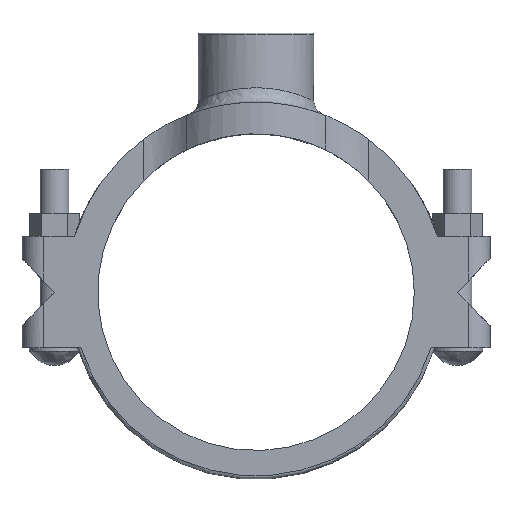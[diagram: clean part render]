
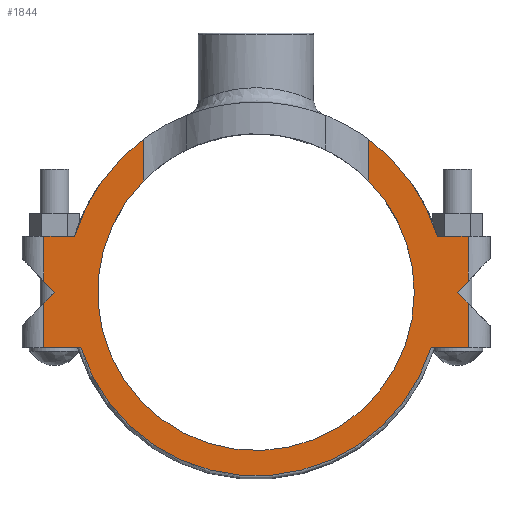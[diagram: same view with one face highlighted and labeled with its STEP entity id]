
A CAD part, top view. The second image highlights one B-rep face of the part: STEP entity #1844.
In plain terms, the highlighted planar face has unit normal (0, 0, 1).
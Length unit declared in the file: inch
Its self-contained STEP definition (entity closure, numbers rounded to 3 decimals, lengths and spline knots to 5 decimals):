
#104=PLANE('',#2021);
#201=LINE('',#3269,#341);
#214=LINE('',#3306,#354);
#217=LINE('',#3426,#357);
#221=LINE('',#3439,#361);
#226=LINE('',#3448,#366);
#234=LINE('',#3466,#374);
#235=LINE('',#3470,#375);
#236=LINE('',#3473,#376);
#237=LINE('',#3475,#377);
#238=LINE('',#3476,#378);
#239=LINE('',#3477,#379);
#240=LINE('',#3479,#380);
#241=LINE('',#3481,#381);
#242=LINE('',#3482,#382);
#341=VECTOR('',#2350,0.3937);
#354=VECTOR('',#2387,0.3937);
#357=VECTOR('',#2402,0.3937);
#361=VECTOR('',#2414,0.3937);
#366=VECTOR('',#2425,0.3937);
#374=VECTOR('',#2445,0.3937);
#375=VECTOR('',#2450,0.3937);
#376=VECTOR('',#2453,0.3937);
#377=VECTOR('',#2454,0.3937);
#378=VECTOR('',#2455,0.3937);
#379=VECTOR('',#2456,0.3937);
#380=VECTOR('',#2457,0.3937);
#381=VECTOR('',#2458,0.3937);
#382=VECTOR('',#2459,0.3937);
#470=FACE_OUTER_BOUND('',#568,.T.);
#568=EDGE_LOOP('',(#1463,#1464,#1465,#1466,#1467,#1468,#1469,#1470,#1471,
#1472,#1473,#1474,#1475,#1476,#1477,#1478,#1479,#1480,#1481));
#602=CIRCLE('',#1896,3.3);
#603=CIRCLE('',#1897,3.3);
#651=CIRCLE('',#2003,2.75);
#652=CIRCLE('',#2004,2.75);
#657=CIRCLE('',#2022,3.19);
#713=VERTEX_POINT('',#2716);
#714=VERTEX_POINT('',#2718);
#717=VERTEX_POINT('',#2756);
#718=VERTEX_POINT('',#2769);
#807=VERTEX_POINT('',#3266);
#808=VERTEX_POINT('',#3268);
#819=VERTEX_POINT('',#3303);
#820=VERTEX_POINT('',#3305);
#826=VERTEX_POINT('',#3365);
#827=VERTEX_POINT('',#3367);
#830=VERTEX_POINT('',#3407);
#831=VERTEX_POINT('',#3425);
#836=VERTEX_POINT('',#3437);
#841=VERTEX_POINT('',#3465);
#842=VERTEX_POINT('',#3469);
#843=VERTEX_POINT('',#3471);
#844=VERTEX_POINT('',#3474);
#845=VERTEX_POINT('',#3478);
#846=VERTEX_POINT('',#3480);
#890=EDGE_CURVE('',#714,#713,#602,.T.);
#894=EDGE_CURVE('',#718,#717,#603,.T.);
#1019=EDGE_CURVE('',#808,#807,#201,.T.);
#1038=EDGE_CURVE('',#820,#819,#214,.T.);
#1045=EDGE_CURVE('',#827,#826,#651,.T.);
#1049=EDGE_CURVE('',#826,#830,#652,.T.);
#1051=EDGE_CURVE('',#831,#820,#217,.T.);
#1058=EDGE_CURVE('',#807,#836,#221,.T.);
#1063=EDGE_CURVE('',#827,#717,#226,.T.);
#1072=EDGE_CURVE('',#831,#841,#234,.T.);
#1074=EDGE_CURVE('',#842,#836,#235,.T.);
#1075=EDGE_CURVE('',#842,#843,#657,.T.);
#1076=EDGE_CURVE('',#841,#843,#236,.T.);
#1077=EDGE_CURVE('',#819,#844,#237,.T.);
#1078=EDGE_CURVE('',#844,#718,#238,.T.);
#1079=EDGE_CURVE('',#830,#714,#239,.T.);
#1080=EDGE_CURVE('',#713,#845,#240,.T.);
#1081=EDGE_CURVE('',#846,#845,#241,.T.);
#1082=EDGE_CURVE('',#846,#808,#242,.T.);
#1463=ORIENTED_EDGE('',*,*,#1019,.T.);
#1464=ORIENTED_EDGE('',*,*,#1058,.T.);
#1465=ORIENTED_EDGE('',*,*,#1074,.F.);
#1466=ORIENTED_EDGE('',*,*,#1075,.T.);
#1467=ORIENTED_EDGE('',*,*,#1076,.F.);
#1468=ORIENTED_EDGE('',*,*,#1072,.F.);
#1469=ORIENTED_EDGE('',*,*,#1051,.T.);
#1470=ORIENTED_EDGE('',*,*,#1038,.T.);
#1471=ORIENTED_EDGE('',*,*,#1077,.T.);
#1472=ORIENTED_EDGE('',*,*,#1078,.T.);
#1473=ORIENTED_EDGE('',*,*,#894,.T.);
#1474=ORIENTED_EDGE('',*,*,#1063,.F.);
#1475=ORIENTED_EDGE('',*,*,#1045,.T.);
#1476=ORIENTED_EDGE('',*,*,#1049,.T.);
#1477=ORIENTED_EDGE('',*,*,#1079,.T.);
#1478=ORIENTED_EDGE('',*,*,#890,.T.);
#1479=ORIENTED_EDGE('',*,*,#1080,.T.);
#1480=ORIENTED_EDGE('',*,*,#1081,.F.);
#1481=ORIENTED_EDGE('',*,*,#1082,.T.);
#1844=ADVANCED_FACE('',(#470),#104,.T.);
#1896=AXIS2_PLACEMENT_3D('',#2719,#2095,#2096);
#1897=AXIS2_PLACEMENT_3D('',#2770,#2097,#2098);
#2003=AXIS2_PLACEMENT_3D('',#3368,#2394,#2395);
#2004=AXIS2_PLACEMENT_3D('',#3422,#2396,#2397);
#2021=AXIS2_PLACEMENT_3D('',#3468,#2448,#2449);
#2022=AXIS2_PLACEMENT_3D('',#3472,#2451,#2452);
#2095=DIRECTION('center_axis',(0.,0.,1.));
#2096=DIRECTION('ref_axis',(-0.956,-0.294,0.));
#2097=DIRECTION('center_axis',(0.,0.,1.));
#2098=DIRECTION('ref_axis',(-0.956,-0.294,0.));
#2350=DIRECTION('',(-0.698,-0.716,0.));
#2387=DIRECTION('',(0.692,0.722,0.));
#2394=DIRECTION('center_axis',(0.,0.,-1.));
#2395=DIRECTION('ref_axis',(-1.,0.,0.));
#2396=DIRECTION('center_axis',(0.,0.,-1.));
#2397=DIRECTION('ref_axis',(-1.,0.,0.));
#2402=DIRECTION('',(-0.698,0.716,0.));
#2414=DIRECTION('',(0.,-1.,0.));
#2425=DIRECTION('',(0.,1.,0.));
#2445=DIRECTION('',(0.,-1.,0.));
#2448=DIRECTION('center_axis',(0.,0.,1.));
#2449=DIRECTION('ref_axis',(1.,0.,0.));
#2450=DIRECTION('',(-1.,0.,0.));
#2451=DIRECTION('center_axis',(0.,0.,1.));
#2452=DIRECTION('ref_axis',(-1.,0.,0.));
#2453=DIRECTION('',(-1.,0.,0.));
#2454=DIRECTION('',(0.,1.,0.));
#2455=DIRECTION('',(-1.,0.,0.));
#2456=DIRECTION('',(0.,1.,0.));
#2457=DIRECTION('',(-1.,0.,0.));
#2458=DIRECTION('',(0.,1.,0.));
#2459=DIRECTION('',(0.692,-0.722,0.));
#2716=CARTESIAN_POINT('',(-3.15422,0.97,0.75));
#2718=CARTESIAN_POINT('',(-1.95656,2.65742,0.75));
#2719=CARTESIAN_POINT('Origin',(0.,0.,0.75));
#2756=CARTESIAN_POINT('',(1.95656,2.65742,0.75));
#2769=CARTESIAN_POINT('',(3.15422,0.97,0.75));
#2770=CARTESIAN_POINT('Origin',(0.,0.,0.75));
#3266=CARTESIAN_POINT('',(-3.685,-0.18991,0.75));
#3268=CARTESIAN_POINT('',(-3.5,0.,0.75));
#3269=CARTESIAN_POINT('',(-2.4541,1.07367,0.75));
#3303=CARTESIAN_POINT('',(3.685,0.19319,0.75));
#3305=CARTESIAN_POINT('',(3.5,0.,0.75));
#3306=CARTESIAN_POINT('',(3.41334,-0.0905,0.75));
#3365=CARTESIAN_POINT('',(2.75,0.,0.75));
#3367=CARTESIAN_POINT('',(1.95656,1.93245,0.75));
#3368=CARTESIAN_POINT('Origin',(0.,0.,0.75));
#3407=CARTESIAN_POINT('',(-1.95656,1.93245,0.75));
#3422=CARTESIAN_POINT('Origin',(0.,0.,0.75));
#3425=CARTESIAN_POINT('',(3.685,-0.18991,0.75));
#3426=CARTESIAN_POINT('',(3.12425,0.38573,0.75));
#3437=CARTESIAN_POINT('',(-3.685,-0.96,0.75));
#3439=CARTESIAN_POINT('',(-3.685,0.,0.75));
#3448=CARTESIAN_POINT('',(1.95656,0.,0.75));
#3465=CARTESIAN_POINT('',(3.685,-0.96,0.75));
#3466=CARTESIAN_POINT('',(3.685,0.,0.75));
#3468=CARTESIAN_POINT('Origin',(1.95656,0.,0.75));
#3469=CARTESIAN_POINT('',(-3.04212,-0.96,0.75));
#3470=CARTESIAN_POINT('',(-3.685,-0.96,0.75));
#3471=CARTESIAN_POINT('',(3.04212,-0.96,0.75));
#3472=CARTESIAN_POINT('Origin',(0.,0.,
0.75));
#3473=CARTESIAN_POINT('',(-3.685,-0.96,0.75));
#3474=CARTESIAN_POINT('',(3.685,0.97,0.75));
#3475=CARTESIAN_POINT('',(3.685,0.,0.75));
#3476=CARTESIAN_POINT('',(2.55539,0.97,0.75));
#3477=CARTESIAN_POINT('',(-1.95656,0.,0.75));
#3478=CARTESIAN_POINT('',(-3.685,0.97,0.75));
#3479=CARTESIAN_POINT('',(-3.875,0.97,0.75));
#3480=CARTESIAN_POINT('',(-3.685,0.19319,0.75));
#3481=CARTESIAN_POINT('',(-3.685,0.,0.75));
#3482=CARTESIAN_POINT('',(-3.54425,0.04621,0.75));
